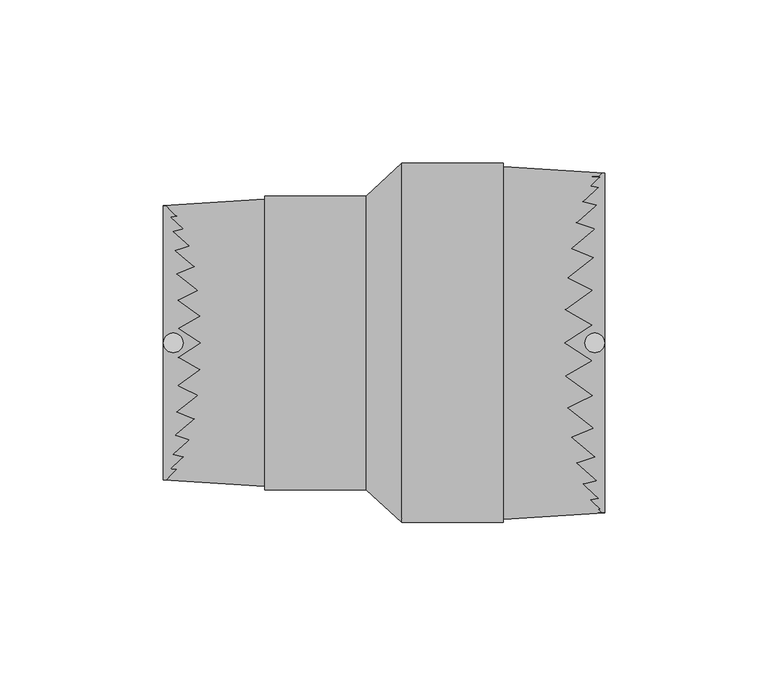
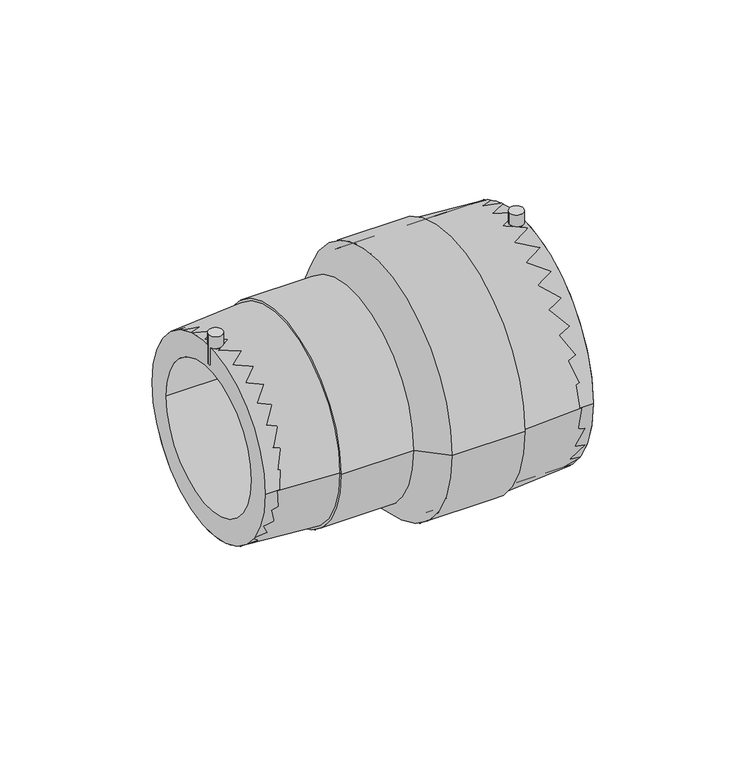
"""IFC4 building model written with IfcOpenShell, lengths in millimetres: pipe fitting geometry, EGB_VASEN_ PPR_Manguito reductor electrosoldable WXRD110 : Manguito reductor electrosoldable WXRD110."""

from ifc_helpers import new_model, si_unit, point, frame, frame_2d, origin, origin_2d, place, context, project, spatial, polyline, circle_curve, trimmed, segment, composite_curve, outline, extrude, source, transform, mapped, element, save
from ifc_brep_helpers import plane_surface, cylinder_surface, revolved_surface, advanced_brep


def pipe_fitting_c42b7c35(model_context):
    return source(origin(), model_context, "Body", "SolidModel", [
        extrude(outline(composite_curve([segment(trimmed(circle_curve(frame_2d((64.5, 0.0)), 3.0), [point((61.5, 0.0))], [point((67.5, 0.0))], False, "CARTESIAN"), True, "CONTINUOUS"), segment(trimmed(circle_curve(frame_2d((64.5, 0.0)), 3.0), [point((67.5, 0.0))], [point((61.5, 0.0))], False, "CARTESIAN"), True, "CONTINUOUS")], self_intersect=False)), frame((0.0, 0.0, 39.5), z_axis=(0.0, 0.0, 1.0), x_axis=(1.0, 0.0, 0.0)), (0.0, 0.0, 1.0), 17.5),
        extrude(outline(composite_curve([segment(trimmed(circle_curve(frame_2d((-64.5, 0.0)), 3.0), [point((-67.5, 0.0))], [point((-61.5, 0.0))], False, "CARTESIAN"), True, "CONTINUOUS"), segment(trimmed(circle_curve(frame_2d((-64.5, 0.0)), 3.0), [point((-61.5, 0.0))], [point((-67.5, 0.0))], False, "CARTESIAN"), True, "CONTINUOUS")], self_intersect=False)), frame((0.0, 0.0, 33.5), z_axis=(0.0, 0.0, 1.0), x_axis=(1.0, 0.0, 0.0)), (0.0, 0.0, 1.0), 13.5),
        extrude(outline(composite_curve([segment(trimmed(circle_curve(origin_2d(), 52.0), [point((-52.0, 0.0))], [point((52.0, 0.0))], False, "CARTESIAN"), True, "CONTINUOUS"), segment(trimmed(circle_curve(origin_2d(), 52.0), [point((52.0, 0.0))], [point((-52.0, 0.0))], False, "CARTESIAN"), True, "CONTINUOUS")], self_intersect=False), holes=[composite_curve([segment(trimmed(circle_curve(origin_2d(), 37.5), [point((-37.5, 0.0))], [point((37.5, 0.0))], True, "CARTESIAN"), True, "CONTINUOUS"), segment(trimmed(circle_curve(origin_2d(), 37.5), [point((37.5, 0.0))], [point((-37.5, 0.0))], True, "CARTESIAN"), True, "CONTINUOUS")], self_intersect=False)]), frame((5.4, 0.0, 0.0), z_axis=(1.0, 0.0, 0.0), x_axis=(0.0, 1.0, 0.0)), (0.0, 0.0, 1.0), 62.1),
        extrude(outline(composite_curve([segment(trimmed(circle_curve(origin_2d(), 42.0), [point((-42.0, 0.0))], [point((42.0, 0.0))], False, "CARTESIAN"), True, "CONTINUOUS"), segment(trimmed(circle_curve(origin_2d(), 42.0), [point((42.0, 0.0))], [point((-42.0, 0.0))], False, "CARTESIAN"), True, "CONTINUOUS")], self_intersect=False), holes=[composite_curve([segment(trimmed(circle_curve(origin_2d(), 31.5), [point((-31.5, 0.0))], [point((31.5, 0.0))], True, "CARTESIAN"), True, "CONTINUOUS"), segment(trimmed(circle_curve(origin_2d(), 31.5), [point((31.5, 0.0))], [point((-31.5, 0.0))], True, "CARTESIAN"), True, "CONTINUOUS")], self_intersect=False)]), frame((-67.5, 0.0, 0.0), z_axis=(1.0, 0.0, 0.0), x_axis=(0.0, 1.0, 0.0)), (0.0, 0.0, 1.0), 62.1),
        advanced_brep(
        [(5.4, -52.0, 0.0), (5.4, 52.0, 0.0), (-5.4, -42.0, 0.0), (-5.4, 42.0, 0.0)],
        [
            (0, 1, circle_curve(frame((5.4, 0.0, 0.0), z_axis=(1.0, 0.0, 0.0), x_axis=(0.0, -1.0, 0.0)), 52.0)),
            (1, 0, circle_curve(frame((5.4, 0.0, 0.0), z_axis=(1.0, 0.0, 0.0), x_axis=(0.0, 1.0, 0.0)), 52.0)),
            (2, 3, circle_curve(frame((-5.4, 0.0, 0.0), z_axis=(-1.0, 0.0, 0.0), x_axis=(0.0, 1.0, 0.0)), 42.0)),
            (3, 2, circle_curve(frame((-5.4, 0.0, 0.0), z_axis=(-1.0, 0.0, 0.0), x_axis=(0.0, -1.0, 0.0)), 42.0)),
            (3, 1),
            (0, 2),
        ],
        [
            plane_surface(frame((5.4, 0.0, 0.0), z_axis=(1.0, 0.0, 0.0), x_axis=(0.0, 0.0, -1.0))),
            plane_surface(frame((-5.4, 0.0, 0.0), z_axis=(-1.0, 0.0, 0.0), x_axis=(0.0, 0.0, -1.0))),
            revolved_surface(polyline([(-5.399999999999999, 42.0, 0.0), (5.399999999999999, 52.0, 0.0)]), (-50.76, 0.0, 0.0), (1.0, 0.0, 0.0)),
            revolved_surface(polyline([(-5.399999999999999, -42.0, 0.0), (5.399999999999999, -52.0, 0.0)]), (-50.76, 0.0, 0.0), (1.0, 0.0, 0.0)),
        ],
        [
            (0, [[1, 2]]),
            (1, [[3, 4]]),
            (2, [[-4, 5, -1, 6]]),
            (3, [[-3, -6, -2, -5]]),
        ],
    ),
        advanced_brep(
        [(5.4, -52.0, 0.0), (5.4, 52.0, 0.0), (-5.4, 42.0, 0.0), (-5.4, -42.0, 0.0), (67.5, -52.0, 0.0), (67.5, 52.0, 0.0), (36.45, -54.0, 0.0), (36.45, 54.0, 0.0), (36.45, -55.0, 0.0), (36.45, 55.0, 0.0), (5.4, -55.0, 0.0), (5.4, 55.0, 0.0), (-5.4, -45.0, 0.0), (-5.4, 45.0, 0.0), (-36.45, -45.0, 0.0), (-36.45, 45.0, 0.0), (-36.45, -44.0, 0.0), (-36.45, 44.0, 0.0), (-67.5, -42.0, 0.0), (-67.5, 42.0, 0.0)],
        [
            (0, 1, circle_curve(frame((5.4, 0.0, 0.0), z_axis=(1.0, 0.0, 0.0), x_axis=(0.0, 1.0, 0.0)), 52.0)),
            (1, 2),
            (2, 3, circle_curve(frame((-5.4, 0.0, 0.0), z_axis=(-1.0, 0.0, 0.0), x_axis=(0.0, 1.0, 0.0)), 42.0)),
            (3, 0),
            (1, 0, circle_curve(frame((5.4, 0.0, 0.0), z_axis=(1.0, 0.0, 0.0), x_axis=(0.0, 1.0, 0.0)), 52.0)),
            (3, 2, circle_curve(frame((-5.4, 0.0, 0.0), z_axis=(-1.0, 0.0, 0.0), x_axis=(0.0, 1.0, 0.0)), 42.0)),
            (4, 5, circle_curve(frame((67.5, 0.0, 0.0), z_axis=(1.0, 0.0, 0.0), x_axis=(0.0, 1.0, 0.0)), 52.0)),
            (5, 1),
            (0, 4),
            (5, 4, circle_curve(frame((67.5, 0.0, 0.0), z_axis=(1.0, 0.0, 0.0), x_axis=(0.0, 1.0, 0.0)), 52.0)),
            (6, 7, circle_curve(frame((36.45, 0.0, 0.0), z_axis=(1.0, 0.0, 0.0), x_axis=(0.0, 1.0, 0.0)), 54.0)),
            (7, 5),
            (4, 6),
            (7, 6, circle_curve(frame((36.45, 0.0, 0.0), z_axis=(1.0, 0.0, 0.0), x_axis=(0.0, 1.0, 0.0)), 54.0)),
            (8, 9, circle_curve(frame((36.45, 0.0, 0.0), z_axis=(1.0, 0.0, 0.0), x_axis=(0.0, 1.0, 0.0)), 55.0)),
            (9, 7),
            (6, 8),
            (9, 8, circle_curve(frame((36.45, 0.0, 0.0), z_axis=(1.0, 0.0, 0.0), x_axis=(0.0, 1.0, 0.0)), 55.0)),
            (10, 11, circle_curve(frame((5.4, 0.0, 0.0), z_axis=(1.0, 0.0, 0.0), x_axis=(0.0, 1.0, 0.0)), 55.0)),
            (11, 9),
            (8, 10),
            (11, 10, circle_curve(frame((5.4, 0.0, 0.0), z_axis=(1.0, 0.0, 0.0), x_axis=(0.0, 1.0, 0.0)), 55.0)),
            (12, 13, circle_curve(frame((-5.4, 0.0, 0.0), z_axis=(1.0, 0.0, 0.0), x_axis=(0.0, 1.0, 0.0)), 45.0)),
            (13, 11),
            (10, 12),
            (13, 12, circle_curve(frame((-5.4, 0.0, 0.0), z_axis=(1.0, 0.0, 0.0), x_axis=(0.0, 1.0, 0.0)), 45.0)),
            (14, 15, circle_curve(frame((-36.45, 0.0, 0.0), z_axis=(1.0, 0.0, 0.0), x_axis=(0.0, 1.0, 0.0)), 45.0)),
            (15, 13),
            (12, 14),
            (15, 14, circle_curve(frame((-36.45, 0.0, 0.0), z_axis=(1.0, 0.0, 0.0), x_axis=(0.0, 1.0, 0.0)), 45.0)),
            (16, 17, circle_curve(frame((-36.45, 0.0, 0.0), z_axis=(1.0, 0.0, 0.0), x_axis=(0.0, 1.0, 0.0)), 44.0)),
            (17, 15),
            (14, 16),
            (17, 16, circle_curve(frame((-36.45, 0.0, 0.0), z_axis=(1.0, 0.0, 0.0), x_axis=(0.0, 1.0, 0.0)), 44.0)),
            (18, 19, circle_curve(frame((-67.5, 0.0, 0.0), z_axis=(1.0, 0.0, 0.0), x_axis=(0.0, 1.0, 0.0)), 42.0)),
            (19, 17),
            (16, 18),
            (19, 18, circle_curve(frame((-67.5, 0.0, 0.0), z_axis=(1.0, 0.0, 0.0), x_axis=(0.0, 1.0, 0.0)), 42.0)),
            (2, 19),
            (18, 3),
        ],
        [
            revolved_surface(polyline([(-5.4, 42.0, 0.0), (5.4, 52.0, 0.0)]), (-102.5, 0.0, 0.0), (-1.0, 0.0, 0.0)),
            revolved_surface(polyline([(5.400000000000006, 52.0, 0.0), (67.5, 52.0, 0.0)]), (-102.5, 0.0, 0.0), (-1.0, 0.0, 0.0)),
            revolved_surface(polyline([(67.5, 52.0, 0.0), (36.45, 54.0, 0.0)]), (-102.5, 0.0, 0.0), (-1.0, 0.0, 0.0)),
            plane_surface(frame((36.45, 0.0, 0.0), z_axis=(1.0, 0.0, 0.0), x_axis=(0.0, 1.0, 0.0))),
            cylinder_surface(frame((-102.5, 0.0, 0.0), z_axis=(-1.0, 0.0, 0.0), x_axis=(0.0, 1.0, 0.0)), 55.0),
            revolved_surface(polyline([(5.4, 55.0, 0.0), (-5.4, 45.0, 0.0)]), (-102.5, 0.0, 0.0), (-1.0, 0.0, 0.0)),
            cylinder_surface(frame((-102.5, 0.0, 0.0), z_axis=(-1.0, 0.0, 0.0), x_axis=(0.0, 1.0, 0.0)), 45.0),
            plane_surface(frame((-36.45, 0.0, 0.0), z_axis=(-1.0, 0.0, 0.0), x_axis=(0.0, 1.0, 0.0))),
            revolved_surface(polyline([(-36.45, 44.0, 0.0), (-67.5, 42.0, 0.0)]), (-102.5, 0.0, 0.0), (-1.0, 0.0, 0.0)),
            revolved_surface(polyline([(-67.5, 42.0, 0.0), (-5.400000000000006, 42.0, 0.0)]), (-102.5, 0.0, 0.0), (-1.0, 0.0, 0.0)),
        ],
        [
            (0, [[1, 2, 3, 4]]),
            (0, [[5, -4, 6, -2]]),
            (1, [[7, 8, -1, 9]]),
            (1, [[10, -9, -5, -8]]),
            (2, [[11, 12, -7, 13]]),
            (2, [[14, -13, -10, -12]]),
            (3, [[15, 16, -11, 17]]),
            (3, [[18, -17, -14, -16]]),
            (4, [[19, 20, -15, 21]]),
            (4, [[22, -21, -18, -20]]),
            (5, [[23, 24, -19, 25]]),
            (5, [[26, -25, -22, -24]]),
            (6, [[27, 28, -23, 29]]),
            (6, [[30, -29, -26, -28]]),
            (7, [[31, 32, -27, 33]]),
            (7, [[34, -33, -30, -32]]),
            (8, [[35, 36, -31, 37]]),
            (8, [[38, -37, -34, -36]]),
            (9, [[-3, 39, -35, 40]]),
            (9, [[-6, -40, -38, -39]]),
        ],
    ),
    ])


if __name__ == "__main__":
    model = new_model("IFC4")
    model_context = context("Model", 3, world=origin())
    ifc_project = project(units=[si_unit("LENGTHUNIT", "METRE", prefix="MILLI")], contexts=[model_context])
    site = spatial("IfcSite", under=ifc_project)
    building = spatial("IfcBuilding", under=site)
    placement = place(None, origin())
    pipe_fitting_shape = pipe_fitting_c42b7c35(model_context)
    element("IfcPipeFitting", 1, ObjectType="EGB_VASEN_ PPR_Manguito reductor electrosoldable WXRD110 : Manguito reductor electrosoldable WXRD110", at=placement, inside=building, context=model_context, shape_type="MappedRepresentation", body=[
        mapped(pipe_fitting_shape, transform((0.0, 0.0, 0.0), x_axis=(1.0, 0.0, 0.0), y_axis=(0.0, 1.0, 0.0), z_axis=(0.0, 0.0, 1.0))),
    ])
    save(model, "model.ifc")
